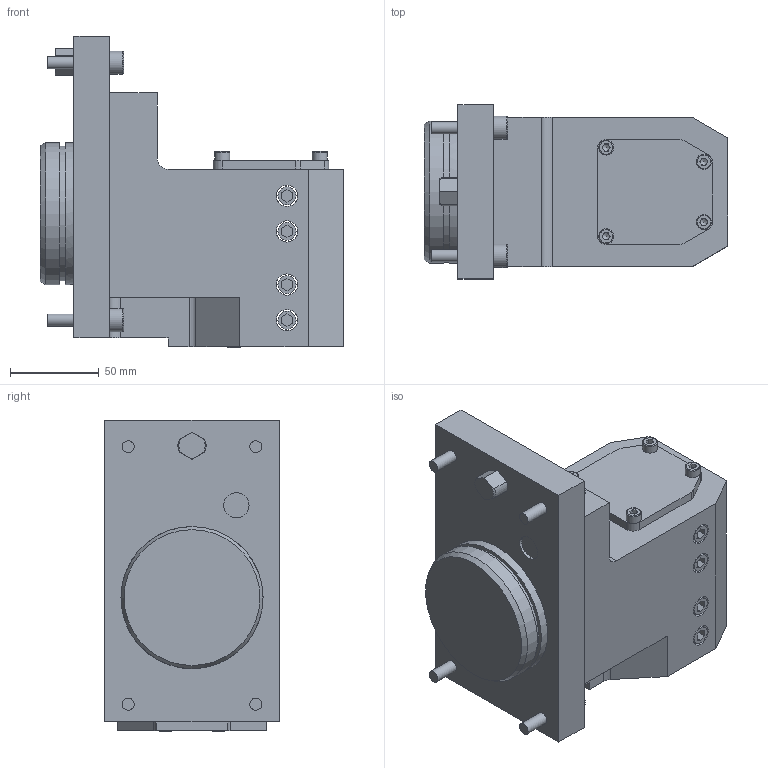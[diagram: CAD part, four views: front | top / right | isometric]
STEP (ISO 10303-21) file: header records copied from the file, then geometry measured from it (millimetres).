
FILE_DESCRIPTION(/* description */ (''),/* implementation_level */ '2;1');
FILE_NAME(/* name */ '178645',/* time_stamp */ '2020-09-28T12:40:22+02:00',/* author */ (''),/* organization */ (''),/* preprocessor_version */ 'ST-DEVELOPER v16.5',/* originating_system */ 'HiCAD 2017 2201.0 Build 268',/* authorisation */ '');
FILE_SCHEMA (('AUTOMOTIVE_DESIGN { 1 0 10303 214 1 1 1 1 }'));
Length unit declared in the file: millimetre
Products named in the file (2): Root; Teil
Assembly tree (1 placements, depth 2):
  Root
    Teil
Bounding box: 171 x 98 x 175.66 mm (x, y, z)
Volume: 1420736.1 mm3; surface area: 129779.5 mm2
Topology: 9 solids, 9 shells, 306 faces, 722 edges, 463 vertices
Faces by surface type: plane 221, cylinder 54, cone 21, torus 8, sphere 2
Full cylindrical faces by diameter (mm): 6.8 x4, 8.5 x12, 10.2 x8, 12 x8, 13 x4, 14.27 x1, 40 x1, 75.8 x1, 80 x2
Entity records: 14560 total; most frequent: CARTESIAN_POINT 1629, DIRECTION 1401, PRESENTATION_STYLE_ASSIGNMENT 1241, COLOUR_RGB 1241, DRAUGHTING_PRE_DEFINED_CURVE_FONT 1240, CURVE_STYLE 1240, OVER_RIDING_STYLED_ITEM 1240, ORIENTED_EDGE 1240
